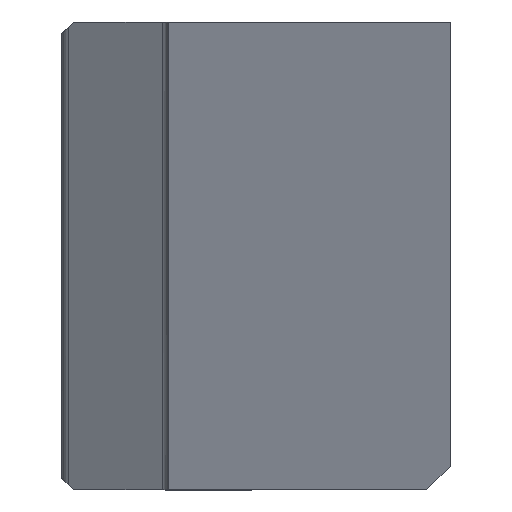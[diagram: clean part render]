
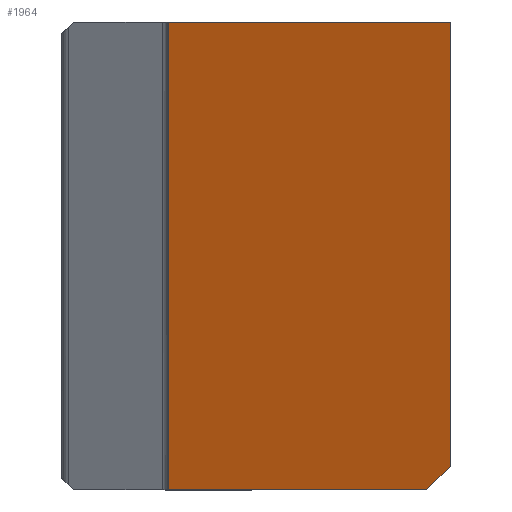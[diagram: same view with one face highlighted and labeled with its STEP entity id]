
A CAD part, left-side view. The second image highlights one B-rep face of the part: STEP entity #1964.
In plain terms, the highlighted planar face has unit normal (-0.943, 0, -0.334).
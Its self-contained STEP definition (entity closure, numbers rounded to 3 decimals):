
#343 = LINE ( 'NONE', #5029, #671 ) ;
#455 = LINE ( 'NONE', #2724, #7533 ) ;
#599 = VERTEX_POINT ( 'NONE', #9486 ) ;
#671 = VECTOR ( 'NONE', #1812, 1000. ) ;
#1104 = LINE ( 'NONE', #6385, #2131 ) ;
#1321 = CARTESIAN_POINT ( 'NONE',  ( 0., 0., 0. ) ) ;
#1452 = EDGE_LOOP ( 'NONE', ( #9151, #1546, #3936, #3283, #9552 ) ) ;
#1546 = ORIENTED_EDGE ( 'NONE', *, *, #9277, .T. ) ;
#1812 = DIRECTION ( 'NONE',  ( 0., -1., 0. ) ) ;
#1944 = AXIS2_PLACEMENT_3D ( 'NONE', #1321, #7391, #2775 ) ;
#1964 = ADVANCED_FACE ( 'NONE', ( #8952 ), #2925, .T. ) ;
#2131 = VECTOR ( 'NONE', #9541, 1000. ) ;
#2637 = DIRECTION ( 'NONE',  ( 0., 1., 0. ) ) ;
#2724 = CARTESIAN_POINT ( 'NONE',  ( 20.926, 49., -59. ) ) ;
#2775 = DIRECTION ( 'NONE',  ( -0.334, 0., 0.942 ) ) ;
#2925 = PLANE ( 'NONE',  #1944 ) ;
#3133 = EDGE_CURVE ( 'NONE', #7602, #8695, #6605, .T. ) ;
#3283 = ORIENTED_EDGE ( 'NONE', *, *, #9498, .F. ) ;
#3579 = LINE ( 'NONE', #5346, #4863 ) ;
#3936 = ORIENTED_EDGE ( 'NONE', *, *, #9479, .F. ) ;
#4275 = VERTEX_POINT ( 'NONE', #7462 ) ;
#4863 = VECTOR ( 'NONE', #9149, 1000. ) ;
#5029 = CARTESIAN_POINT ( 'NONE',  ( 0., 49., 0. ) ) ;
#5346 = CARTESIAN_POINT ( 'NONE',  ( 9.343, -29.657, -26.343 ) ) ;
#6196 = CARTESIAN_POINT ( 'NONE',  ( 19.862, 0., -56. ) ) ;
#6385 = CARTESIAN_POINT ( 'NONE',  ( 20.926, 0., -59. ) ) ;
#6605 = LINE ( 'NONE', #8119, #7653 ) ;
#7391 = DIRECTION ( 'NONE',  ( -0.942, 0., -0.334 ) ) ;
#7462 = CARTESIAN_POINT ( 'NONE',  ( 0., 0., 0. ) ) ;
#7533 = VECTOR ( 'NONE', #2637, 1000. ) ;
#7602 = VERTEX_POINT ( 'NONE', #8601 ) ;
#7606 = VERTEX_POINT ( 'NONE', #6196 ) ;
#7653 = VECTOR ( 'NONE', #8317, 1000. ) ;
#7967 = CARTESIAN_POINT ( 'NONE',  ( 0., 35.5, 0. ) ) ;
#8119 = CARTESIAN_POINT ( 'NONE',  ( 0., 35.5, 0. ) ) ;
#8317 = DIRECTION ( 'NONE',  ( -0.334, 0., 0.942 ) ) ;
#8476 = EDGE_CURVE ( 'NONE', #599, #7602, #455, .T. ) ;
#8601 = CARTESIAN_POINT ( 'NONE',  ( 20.926, 35.5, -59. ) ) ;
#8695 = VERTEX_POINT ( 'NONE', #7967 ) ;
#8952 = FACE_OUTER_BOUND ( 'NONE', #1452, .T. ) ;
#9149 = DIRECTION ( 'NONE',  ( -0.243, -0.686, 0.686 ) ) ;
#9151 = ORIENTED_EDGE ( 'NONE', *, *, #8476, .F. ) ;
#9277 = EDGE_CURVE ( 'NONE', #599, #7606, #3579, .T. ) ;
#9479 = EDGE_CURVE ( 'NONE', #4275, #7606, #1104, .T. ) ;
#9486 = CARTESIAN_POINT ( 'NONE',  ( 20.926, 3., -59. ) ) ;
#9498 = EDGE_CURVE ( 'NONE', #8695, #4275, #343, .T. ) ;
#9541 = DIRECTION ( 'NONE',  ( 0.334, 0., -0.942 ) ) ;
#9552 = ORIENTED_EDGE ( 'NONE', *, *, #3133, .F. ) ;
